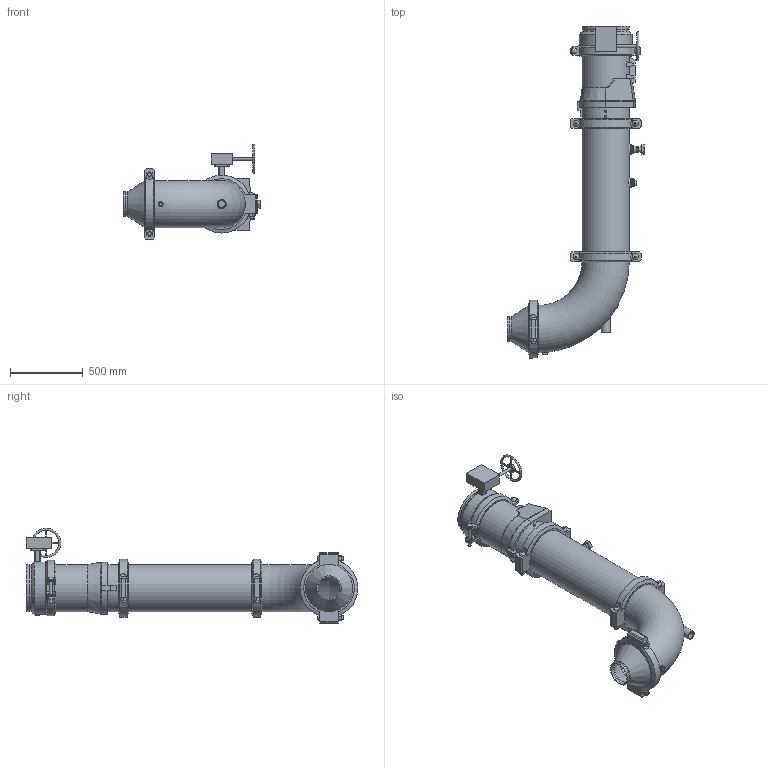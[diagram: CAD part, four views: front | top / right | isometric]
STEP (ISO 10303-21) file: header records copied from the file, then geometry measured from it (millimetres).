
FILE_DESCRIPTION(/* description */ ('VIC DVI PUMP DROP HORZ S/380G (OGS)','CAx-IF Rec.Pracs.---Representation and Presentation of Product Manufacturing Information (PMI)---4.0---2014-10-13'),/* implementation_level */ '2;1');
FILE_NAME(/* name */ 'C:\Users\Vjadhav\AppData\Roaming\Autodesk\ApplicationPlugins\Victaulic.Temp\A853\Victaulic_IPS_Horizontal DVI_Series 380G (OGS)_924 (1.25)_12.0x06.0 (300x150).stp',/* time_stamp */ '2021-07-13T16:46:59+05:00',/* author */ ('Vjadhav'),/* organization */ ('Victaulic'),/* preprocessor_version */ 'ST-DEVELOPER v17.2',/* originating_system */ 'Autodesk Inventor 2019',/* authorisation */ '');
FILE_SCHEMA (('AP242_MANAGED_MODEL_BASED_3D_ENGINEERING_MIM_LF { 1 0 10303 442 1 1 4 }'));
Length unit declared in the file: inch
Products named in the file (10): 380G_924 (1.25)-12.0x06.0; Pipe-12.0; 107N-12.0; 924-10.0x01.25; 923-10.0x0.75; 779-12.0; 761-12.0; 077-12.0; 100G-12.0; 050-12.0x06.0
Assembly tree (11 placements, depth 2):
  380G_924 (1.25)-12.0x06.0
    Pipe-12.0
    107N-12.0
    924-10.0x01.25
    923-10.0x0.75
    779-12.0
    761-12.0
    077-12.0  x3
    100G-12.0
    050-12.0x06.0
Bounding box: 941.26 x 2279.33 x 655.43 mm (x, y, z)
Volume: 46297430.7 mm3; surface area: 6797397.2 mm2
Topology: 11 solids, 19 shells, 633 faces, 1569 edges, 1062 vertices
Faces by surface type: plane 362, cylinder 211, bspline 24, cone 24, torus 10, sphere 2
Full cylindrical faces by diameter (mm): 10.922 x4, 13.716 x4, 20.066 x1, 20.93 x1, 21.336 x2, 22.225 x4, 22.86 x1, 25.4 x12, 26.67 x4, 27.432 x6, 31.75 x1, 34.29 x1, 37.694 x2, 38.608 x1, 42.164 x1, 45.974 x4, 48.26 x1, 48.514 x1, 55.626 x2, 60.96 x1, 63.079 x1, 70.104 x1, 76.2 x1, 154.051 x1, 163.957 x1, 168.275 x2, 303.225 x2, 304.8 x4, 311.15 x1, 314.96 x3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
Entity records: 17688 total; most frequent: CARTESIAN_POINT 4048, DIRECTION 2785, ORIENTED_EDGE 2558, EDGE_CURVE 1279, AXIS2_PLACEMENT_3D 1063, VERTEX_POINT 866, LINE 659, VECTOR 659
